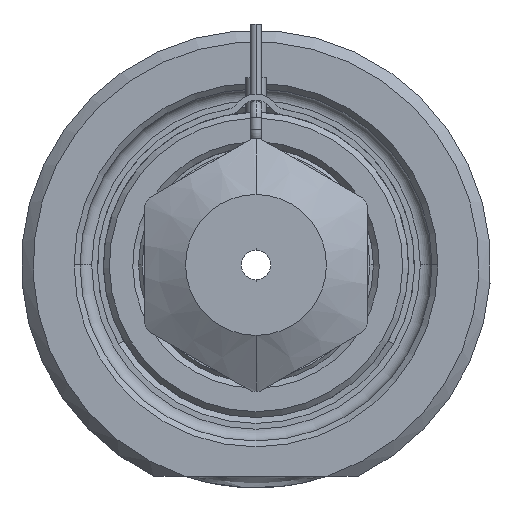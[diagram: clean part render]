
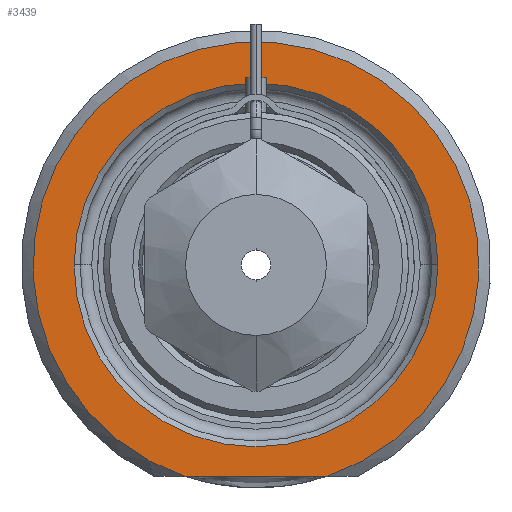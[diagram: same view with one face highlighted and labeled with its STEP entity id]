
A CAD part, front view. The second image highlights one B-rep face of the part: STEP entity #3439.
In plain terms, the highlighted planar face has unit normal (0, -1, 0).
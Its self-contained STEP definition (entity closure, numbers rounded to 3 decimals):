
#1=DIRECTION('',(1.,0.,0.));
#2=VECTOR('',#1,12.166);
#3=CARTESIAN_POINT('',(-6.083,0.,-18.));
#4=LINE('',#3,#2);
#5=CARTESIAN_POINT('',(0.,0.,0.));
#6=DIRECTION('',(0.,1.,0.));
#7=DIRECTION('',(-1.,0.,0.));
#8=AXIS2_PLACEMENT_3D('',#5,#6,#7);
#10=CARTESIAN_POINT('',(0.,0.,0.));
#11=DIRECTION('',(0.,1.,0.));
#12=DIRECTION('',(1.,0.,0.));
#13=AXIS2_PLACEMENT_3D('',#10,#11,#12);
#264=CARTESIAN_POINT('',(0.,0.,0.));
#265=DIRECTION('',(0.,-1.,0.));
#266=DIRECTION('',(0.32,0.,-0.947));
#267=AXIS2_PLACEMENT_3D('',#264,#265,#266);
#2883=CARTESIAN_POINT('',(-15.5,0.,0.));
#2884=CARTESIAN_POINT('',(15.5,0.,0.));
#2885=VERTEX_POINT('',#2883);
#2886=VERTEX_POINT('',#2884);
#2941=CARTESIAN_POINT('',(-6.083,0.,-18.));
#2942=CARTESIAN_POINT('',(6.083,0.,-18.));
#2943=VERTEX_POINT('',#2941);
#2944=VERTEX_POINT('',#2942);
#3422=CARTESIAN_POINT('',(0.,0.,0.));
#3423=DIRECTION('',(0.,-1.,0.));
#3424=DIRECTION('',(1.,0.,0.));
#3425=AXIS2_PLACEMENT_3D('',#3422,#3423,#3424);
#3426=PLANE('',#3425);
#3428=ORIENTED_EDGE('',*,*,#3427,.F.);
#3430=ORIENTED_EDGE('',*,*,#3429,.F.);
#3431=EDGE_LOOP('',(#3428,#3430));
#3432=FACE_OUTER_BOUND('',#3431,.F.);
#3434=ORIENTED_EDGE('',*,*,#3433,.F.);
#3436=ORIENTED_EDGE('',*,*,#3435,.F.);
#3437=EDGE_LOOP('',(#3434,#3436));
#3438=FACE_BOUND('',#3437,.F.);
#3439=ADVANCED_FACE('',(#3432,#3438),#3426,.T.);
#9=CIRCLE('',#8,15.5);
#14=CIRCLE('',#13,15.5);
#268=CIRCLE('',#267,19.);
#3427=EDGE_CURVE('',#2943,#2944,#4,.T.);
#3429=EDGE_CURVE('',#2944,#2943,#268,.T.);
#3433=EDGE_CURVE('',#2885,#2886,#9,.T.);
#3435=EDGE_CURVE('',#2886,#2885,#14,.T.);
